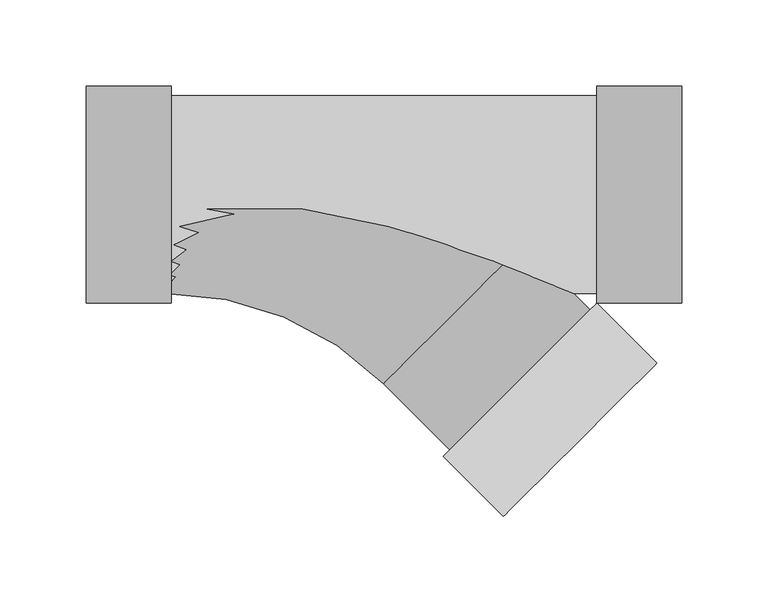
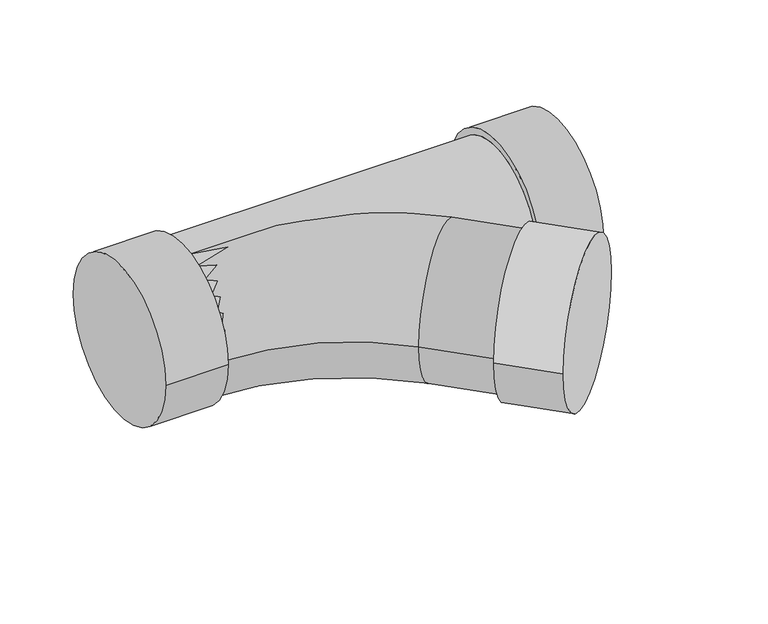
"""IFC4 building model written with IfcOpenShell, lengths in millimetres: pipe fitting geometry, M_Sanitario con te de reducción - PVC - Serie 40 - DWV : Estándar."""

import ifcopenshell
import ifcopenshell.guid

model = None  # the IFC model being written
_history = None  # IfcOwnerHistory: only IFC2X3 demands one
_inside = {}  # id of a spatial element -> (the spatial element, [elements in it])
_under = {}  # id of a project, library or spatial element -> (it, [spatial elements below it])
_declared = {}  # id of a project -> (the project, [libraries it declares])
_typed = {}  # id of a type object -> (the type object, [elements of that type])
_made_of = {}  # id of a material, layer set ... -> (it, [elements and type objects made of it])


def new_model(schema):
    """Start an empty IFC model of exactly this schema.

    Asked for "IFC4X3", IfcOpenShell would pick the latest addendum, in which some entities
    have other attributes; the version numbers below select the first issue.
    IFC2X3 requires an IfcOwnerHistory on every rooted entity: one is made here for all.
    """
    global model, _history
    if schema == "IFC4X3":
        model = ifcopenshell.file(schema_version=(4, 3, 0, 0))
    else:
        model = ifcopenshell.file(schema=schema)
    _inside.clear()
    _under.clear()
    _declared.clear()
    _typed.clear()
    _made_of.clear()
    _history = None
    if model.schema == "IFC2X3":
        org = make("IfcOrganization", Name="unknown")
        user = make(
            "IfcPersonAndOrganization",
            ThePerson=make("IfcPerson", FamilyName="unknown"),
            TheOrganization=org,
        )
        app = make(
            "IfcApplication",
            ApplicationDeveloper=org,
            Version="unknown",
            ApplicationFullName="unknown",
            ApplicationIdentifier="unknown",
        )
        _history = make(
            "IfcOwnerHistory",
            OwningUser=user,
            OwningApplication=app,
            ChangeAction="ADDED",
            CreationDate=0,
        )
    return model


def make(cls, **values):
    """One entity of the class cls with the attributes given. An attribute that is None is left unset."""
    return model.create_entity(
        cls, **{name: value for name, value in values.items() if value is not None}
    )


def rooted(cls, **values):
    """An entity with a GlobalId (a new one), such as an element, a storey or a relation."""
    return make(cls, GlobalId=ifcopenshell.guid.new(), OwnerHistory=_history, **values)


def si_unit(unit_type, name, prefix=None):
    """IfcSIUnit, for example si_unit("LENGTHUNIT", "METRE", prefix="MILLI")."""
    return make("IfcSIUnit", UnitType=unit_type, Prefix=prefix, Name=name)


def assignment(units):
    """IfcUnitAssignment: the units of a project."""
    return None if units is None else make("IfcUnitAssignment", Units=units)


def point(xyz):
    """IfcCartesianPoint."""
    return None if xyz is None else make("IfcCartesianPoint", Coordinates=xyz)


def direction(xyz):
    """IfcDirection."""
    return None if xyz is None else make("IfcDirection", DirectionRatios=xyz)


def frame(location, z_axis=None, x_axis=None):
    """IfcAxis2Placement3D, a coordinate frame: its origin and axes. An axis left out is left unset."""
    return make(
        "IfcAxis2Placement3D",
        Location=point(location),
        Axis=direction(z_axis),
        RefDirection=direction(x_axis),
    )


def origin():
    """The frame at (0, 0, 0) with its axes left unset."""
    return frame((0.0, 0.0, 0.0))


def place(relative_to, where):
    """IfcLocalPlacement: puts the frame where relative to a parent placement (None: the world)."""
    return make(
        "IfcLocalPlacement", PlacementRelTo=relative_to, RelativePlacement=where
    )


def context(
    kind, dimensions, precision=None, world=None, true_north=None, identifier=None
):
    """IfcGeometricRepresentationContext, for example the 3D "Model" context."""
    return make(
        "IfcGeometricRepresentationContext",
        ContextIdentifier=identifier,
        ContextType=kind,
        CoordinateSpaceDimension=dimensions,
        Precision=precision,
        WorldCoordinateSystem=world,
        TrueNorth=true_north,
    )


def project(units=None, contexts=None):
    """IfcProject with its units and contexts."""
    return rooted(
        "IfcProject",
        Name="project",
        RepresentationContexts=contexts,
        UnitsInContext=assignment(units),
    )


def spatial(cls, under=None, at=None, **own):
    """A site, building, storey or space (cls), placed at a placement, below another one or the project."""
    s = rooted(cls, ObjectPlacement=at, **own)
    if under is not None:
        _under.setdefault(under.id(), (under, []))[1].append(s)
    return s


def circle_curve(where, radius):
    """IfcCircle in the frame where."""
    return make("IfcCircle", Position=where, Radius=radius)


def ellipse_curve(where, semi_axis1, semi_axis2):
    """IfcEllipse in the frame where."""
    return make(
        "IfcEllipse", Position=where, SemiAxis1=semi_axis1, SemiAxis2=semi_axis2
    )


def trimmed(basis, trim1, trim2, sense, master):
    """IfcTrimmedCurve: the piece of a basis curve between two trims."""
    return make(
        "IfcTrimmedCurve",
        BasisCurve=basis,
        Trim1=trim1,
        Trim2=trim2,
        SenseAgreement=sense,
        MasterRepresentation=master,
    )


def shape(context_of_items, identifier, shape_type, items):
    """IfcShapeRepresentation: the items that make up one representation, for example the "Body"."""
    return make(
        "IfcShapeRepresentation",
        ContextOfItems=context_of_items,
        RepresentationIdentifier=identifier,
        RepresentationType=shape_type,
        Items=items,
    )


def source(mapping_origin, context_of_items, identifier, shape_type, items):
    """IfcRepresentationMap: a shape defined once, which mapped items show again and again."""
    return make(
        "IfcRepresentationMap",
        MappingOrigin=mapping_origin,
        MappedRepresentation=shape(context_of_items, identifier, shape_type, items),
    )


def transform(
    local_origin,
    x_axis=None,
    y_axis=None,
    z_axis=None,
    scale=None,
    scale2=None,
    scale3=None,
    uniform=True,
):
    """IfcCartesianTransformationOperator3D, or its non-uniform kind. x_axis, y_axis, z_axis: its Axis1, 2, 3."""
    if uniform:
        return make(
            "IfcCartesianTransformationOperator3D",
            Axis1=direction(x_axis),
            Axis2=direction(y_axis),
            LocalOrigin=point(local_origin),
            Scale=scale,
            Axis3=direction(z_axis),
        )
    return make(
        "IfcCartesianTransformationOperator3DnonUniform",
        Axis1=direction(x_axis),
        Axis2=direction(y_axis),
        LocalOrigin=point(local_origin),
        Scale=scale,
        Axis3=direction(z_axis),
        Scale2=scale2,
        Scale3=scale3,
    )


def mapped(mapping_source, mapping_target):
    """IfcMappedItem: shows the shape of a source again, moved by a transform."""
    return make(
        "IfcMappedItem", MappingSource=mapping_source, MappingTarget=mapping_target
    )


def made_of(thing, what):
    """Note that an element or type object is made of a material, layer set ...; save() writes the relation."""
    if what is not None:
        _made_of.setdefault(what.id(), (what, []))[1].append(thing)
    return thing


def element(
    cls,
    number,
    at=None,
    inside=None,
    cuts=None,
    type_object=None,
    material=None,
    context=None,
    identifier="Body",
    shape_type=None,
    held_by="IfcProductDefinitionShape",
    body=None,
    shapes=None,
    **own,
):
    """One element of the class cls, such as IfcWall. Its Tag is "e" and its number.

    at: its placement. inside: the storey or other place that contains it. cuts: it is an
    opening in that element (IfcRelVoidsElement). A single representation is given by context,
    identifier, shape_type and body (its items); several are given by shapes. held_by: the class
    of the entity that holds the representations. save() writes the other relations.
    """
    e = rooted(cls, Tag="e%d" % number, ObjectPlacement=at, **own)
    if body is not None:
        shapes = [shape(context, identifier, shape_type, body)]
    if shapes is not None:
        e.Representation = make(held_by, Representations=shapes)
    if inside is not None:
        _inside.setdefault(inside.id(), (inside, []))[1].append(e)
    if cuts is not None:
        rooted(
            "IfcRelVoidsElement", RelatingBuildingElement=cuts, RelatedOpeningElement=e
        )
    if type_object is not None:
        _typed.setdefault(type_object.id(), (type_object, []))[1].append(e)
    return made_of(e, material)


def aggregate(whole, parts):
    """IfcRelAggregates: a whole, such as a stair, and the parts it consists of."""
    return rooted("IfcRelAggregates", RelatingObject=whole, RelatedObjects=parts)


def save(model, path):
    """Write the relations noted so far, then the file.

    IfcRelAggregates (storeys below a building ...), IfcRelContainedInSpatialStructure (elements
    in a storey), IfcRelDefinesByType, IfcRelAssociatesMaterial and IfcRelDeclares: one each for
    every whole, place, type object, material and project.
    """
    for whole, parts in _under.values():
        aggregate(whole, parts)
    for where, things in _inside.values():
        rooted(
            "IfcRelContainedInSpatialStructure",
            RelatedElements=things,
            RelatingStructure=where,
        )
    for kind, things in _typed.values():
        rooted("IfcRelDefinesByType", RelatedObjects=things, RelatingType=kind)
    for what, things in _made_of.values():
        rooted("IfcRelAssociatesMaterial", RelatedObjects=things, RelatingMaterial=what)
    for by, libraries in _declared.values():
        rooted("IfcRelDeclares", RelatingContext=by, RelatedDefinitions=libraries)
    model.write(path)


def plane_surface(at):
    """IfcPlane: the flat surface through the origin of the frame at, square to its z axis."""
    return make("IfcPlane", Position=at)


def cylinder_surface(at, radius):
    """IfcCylindricalSurface: all points at the distance radius from the z axis of the frame at."""
    return make("IfcCylindricalSurface", Position=at, Radius=radius)


def revolved_surface(curve, axis_point, axis_direction):
    """IfcSurfaceOfRevolution: the curve turned about the line through axis_point along axis_direction."""
    return make(
        "IfcSurfaceOfRevolution",
        SweptCurve=make("IfcArbitraryOpenProfileDef", ProfileType="CURVE", Curve=curve),
        AxisPosition=make("IfcAxis1Placement", Location=point(axis_point), Axis=direction(axis_direction)),
    )


def advanced_brep(points, edges, surfaces, faces):
    """IfcAdvancedBrep: a solid bounded by faces that lie on surfaces and meet in shared edges.

    An edge is (start, end): straight between two places in points (the first is 0);
    or (start, end, curve); or (start, end, curve, False) where it runs against its curve.
    A face is (place in surfaces, loops), or (place, loops, False) where it looks against
    its surface's normal. A loop lists edges by number (the first is 1), with a minus sign
    where the edge is run from its end to its start. The first loop is the outer one.
    """
    corners = [point(p) for p in points]
    vertices = [make("IfcVertexPoint", VertexGeometry=c) for c in corners]
    made = []
    for start, end, *more in edges:
        made.append(
            make(
                "IfcEdgeCurve",
                EdgeStart=vertices[start],
                EdgeEnd=vertices[end],
                EdgeGeometry=more[0] if more else make("IfcPolyline", Points=[corners[start], corners[end]]),
                SameSense=more[1] if len(more) > 1 else True,
            )
        )
    hull = []
    for where, loops, *sense in faces:
        bounds = []
        for j, loop in enumerate(loops):
            ring = [make("IfcOrientedEdge", EdgeElement=made[abs(k) - 1], Orientation=k > 0) for k in loop]
            bounds.append(
                make(
                    "IfcFaceOuterBound" if j == 0 else "IfcFaceBound",
                    Bound=make("IfcEdgeLoop", EdgeList=ring),
                    Orientation=True,
                )
            )
        hull.append(make("IfcAdvancedFace", Bounds=bounds, FaceSurface=surfaces[where], SameSense=sense[0] if sense else True))
    return make("IfcAdvancedBrep", Outer=make("IfcClosedShell", CfsFaces=hull))


def pipe_fitting_528008cb(model_context):
    return source(origin(), model_context, "Body", "AdvancedBrep", [
        advanced_brep(
        [(151.7360007, -62.8511094, 0.0), (151.7360007, 62.8511094, 0.0), (151.7360007, -57.3960625, 0.0), (151.7360007, 57.3960625, 0.0), (200.9723132, -62.8511094, 0.0), (200.9723132, 62.8511094, 0.0), (-94.6584022, 57.3960625, 0.0), (-94.6584022, -57.3960625, 0.0), (-143.8947147, -62.8511094, 0.0), (-143.8947147, 62.8511094, 0.0), (-94.6584022, -62.8511094, 0.0), (-94.6584022, 62.8511094, 0.0)],
        [
            (0, 1, circle_curve(frame((151.7360007, 0.0, 0.0), z_axis=(-1.0, 0.0, 0.0), x_axis=(0.0, 1.0, 0.0)), 62.8511094)),
            (1, 0, circle_curve(frame((151.7360007, 0.0, 0.0), z_axis=(-1.0, 0.0, 0.0), x_axis=(0.0, 1.0, 0.0)), 62.8511094)),
            (2, 3, circle_curve(frame((151.7360007, 0.0, 0.0), z_axis=(1.0, 0.0, 0.0), x_axis=(0.0, 0.0, -1.0)), 57.3960625)),
            (3, 2, circle_curve(frame((151.7360007, 0.0, 0.0), z_axis=(1.0, 0.0, 0.0), x_axis=(0.0, 0.0, 1.0)), 57.3960625)),
            (4, 5, circle_curve(frame((200.9723132, 0.0, 0.0), z_axis=(1.0, 0.0, 0.0), x_axis=(0.0, 1.0, 0.0)), 62.8511094)),
            (5, 4, circle_curve(frame((200.9723132, 0.0, 0.0), z_axis=(1.0, 0.0, 0.0), x_axis=(0.0, 1.0, 0.0)), 62.8511094)),
            (0, 4),
            (5, 1),
            (6, 3),
            (2, 7),
            (7, 6, circle_curve(frame((-94.6584022, 0.0, 0.0), z_axis=(1.0, 0.0, 0.0), x_axis=(0.0, 0.0, -1.0)), 57.3960625)),
            (6, 7, circle_curve(frame((-94.6584022, 0.0, 0.0), z_axis=(1.0, 0.0, 0.0), x_axis=(0.0, 0.0, 1.0)), 57.3960625)),
            (8, 9, circle_curve(frame((-143.8947147, 0.0, 0.0), z_axis=(-1.0, 0.0, 0.0), x_axis=(0.0, 1.0, 0.0)), 62.8511094)),
            (9, 8, circle_curve(frame((-143.8947147, 0.0, 0.0), z_axis=(-1.0, 0.0, 0.0), x_axis=(0.0, 1.0, 0.0)), 62.8511094)),
            (10, 11, circle_curve(frame((-94.6584022, 0.0, 0.0), z_axis=(1.0, 0.0, 0.0), x_axis=(0.0, 1.0, 0.0)), 62.8511094)),
            (11, 10, circle_curve(frame((-94.6584022, 0.0, 0.0), z_axis=(1.0, 0.0, 0.0), x_axis=(0.0, 1.0, 0.0)), 62.8511094)),
            (8, 10),
            (11, 9),
        ],
        [
            plane_surface(frame((151.7360007, 0.0, 0.0), z_axis=(-1.0, 0.0, 0.0), x_axis=(0.0, 0.0, 1.0))),
            plane_surface(frame((200.9723132, 0.0, 0.0), z_axis=(1.0, 0.0, 0.0), x_axis=(0.0, 0.0, 1.0))),
            cylinder_surface(frame((151.7360007, 0.0, 0.0), z_axis=(-1.0, 0.0, 0.0), x_axis=(0.0, 1.0, 0.0)), 62.8511094),
            cylinder_surface(frame((-94.6584022, 0.0, 0.0), z_axis=(1.0, 0.0, 0.0), x_axis=(0.0, 0.0, -1.0)), 57.3960625),
            cylinder_surface(frame((-94.6584022, 0.0, 0.0), z_axis=(1.0, 0.0, 0.0), x_axis=(0.0, 0.0, 1.0)), 57.3960625),
            plane_surface(frame((-143.8947147, 0.0, 0.0), z_axis=(-1.0, 0.0, 0.0), x_axis=(0.0, 0.0, 1.0))),
            plane_surface(frame((-94.6584022, 0.0, 0.0), z_axis=(1.0, 0.0, 0.0), x_axis=(0.0, 0.0, 1.0))),
            cylinder_surface(frame((-143.8947147, 0.0, 0.0), z_axis=(-1.0, 0.0, 0.0), x_axis=(0.0, 1.0, 0.0)), 62.8511094),
        ],
        [
            (0, [[1, 2], [3, 4]]),
            (1, [[5, 6]]),
            (2, [[-1, 7, -6, 8]]),
            (2, [[-2, -8, -5, -7]]),
            (3, [[9, -3, 10, 11]]),
            (4, [[-9, 12, -10, -4]]),
            (5, [[13, 14]]),
            (6, [[15, 16], [-11, -12]]),
            (7, [[-13, 17, -16, 18]]),
            (7, [[-14, -18, -15, -17]]),
        ],
    ),
        advanced_brep(
        [(186.5513311, -97.6664398, 0.0), (97.6664398, -186.5513311, 0.0), (68.9992366, -68.9992366, 57.3960625), (28.4140916, -109.5843816, 0.0), (66.70841, -147.8787, 0.0), (147.8787, -66.70841, 0.0), (109.5843816, -28.4140916, 0.0), (68.9992366, -68.9992366, -57.3960625), (-97.5796562, -57.3960625, 0.0), (-97.5796562, 57.3960625, 0.0), (151.7360007, -62.8511094, 0.0), (62.8511094, -151.7360007, 0.0)],
        [
            (0, 1, circle_curve(frame((142.1088855, -142.1088855, 0.0), z_axis=(0.7071067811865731, -0.7071067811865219, 0.0), x_axis=(-0.7071067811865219, -0.7071067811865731, 0.0)), 62.8511094)),
            (1, 0, circle_curve(frame((142.1088855, -142.1088855, 0.0), z_axis=(0.7071067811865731, -0.7071067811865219, 0.0), x_axis=(-0.7071067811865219, -0.7071067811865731, 0.0)), 62.8511094)),
            (2, 3, circle_curve(frame((68.9992366, -68.9992366, 0.0), z_axis=(0.7071067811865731, -0.707106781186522, 0.0), x_axis=(0.707106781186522, 0.7071067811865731, 0.0)), 57.3960625)),
            (3, 4),
            (4, 5, circle_curve(frame((107.293555, -107.293555, 0.0), z_axis=(-0.7071067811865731, 0.707106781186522, 0.0), x_axis=(0.707106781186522, 0.7071067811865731, 0.0)), 57.3960625)),
            (5, 6),
            (6, 2, circle_curve(frame((68.9992366, -68.9992366, 0.0), z_axis=(0.7071067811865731, -0.707106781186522, 0.0), x_axis=(0.707106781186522, 0.7071067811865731, 0.0)), 57.3960625)),
            (3, 7, circle_curve(frame((68.9992366, -68.9992366, 0.0), z_axis=(0.7071067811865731, -0.707106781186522, 0.0), x_axis=(0.707106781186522, 0.7071067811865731, 0.0)), 57.3960625)),
            (7, 6, circle_curve(frame((68.9992366, -68.9992366, 0.0), z_axis=(0.7071067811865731, -0.707106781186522, 0.0), x_axis=(0.707106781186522, 0.7071067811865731, 0.0)), 57.3960625)),
            (5, 4, circle_curve(frame((107.293555, -107.293555, 0.0), z_axis=(-0.7071067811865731, 0.707106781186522, 0.0), x_axis=(0.707106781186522, 0.7071067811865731, 0.0)), 57.3960625)),
            (8, 9, circle_curve(frame((-97.5796562, 0.0, 0.0), z_axis=(-1.0, 0.0, 0.0), x_axis=(0.0, 1.0, 0.0)), 57.3960625)),
            (9, 8, circle_curve(frame((-97.5796562, 0.0, 0.0), z_axis=(-1.0, 0.0, 0.0), x_axis=(0.0, 1.0, 0.0)), 57.3960625)),
            (8, 3, circle_curve(frame((-97.5796562, -235.5781295, 0.0), z_axis=(0.0, 0.0, -1.0), x_axis=(0.0, 1.0, 0.0)), 178.182067)),
            (6, 9, circle_curve(frame((-97.5796562, -235.5781295, 0.0), z_axis=(0.0, 0.0, 1.0), x_axis=(0.0, 1.0, 0.0)), 292.974192)),
            (10, 11, circle_curve(frame((107.293555, -107.293555, 0.0), z_axis=(-0.7071067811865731, 0.7071067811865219, 0.0), x_axis=(-0.7071067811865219, -0.7071067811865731, 0.0)), 62.8511094)),
            (11, 10, circle_curve(frame((107.293555, -107.293555, 0.0), z_axis=(-0.7071067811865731, 0.7071067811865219, 0.0), x_axis=(-0.7071067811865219, -0.7071067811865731, 0.0)), 62.8511094)),
            (0, 10),
            (11, 1),
        ],
        [
            plane_surface(frame((142.1088855, -142.1088855, 0.0), z_axis=(0.7071067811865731, -0.707106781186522, 0.0), x_axis=(0.0, 0.0, 1.0))),
            cylinder_surface(frame((68.9992366, -68.9992366, 0.0), z_axis=(-0.7071067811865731, 0.707106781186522, 0.0), x_axis=(0.707106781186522, 0.7071067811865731, 0.0)), 57.3960625),
            plane_surface(frame((-97.5796562, 0.0, 0.0), z_axis=(-1.0, 0.0, 0.0), x_axis=(0.0, 0.0, 1.0))),
            revolved_surface(trimmed(ellipse_curve(frame((-97.5796562, 0.0, 0.0), z_axis=(-1.0, 0.0, 0.0), x_axis=(0.0, 1.0, 0.0)), 57.3960625, 57.3960625), [point((-97.5796562, -57.3960625, 0.0))], [point((-97.5796562, 57.3960625, 0.0))], True, "CARTESIAN"), (-97.5796562, -235.5781295, 0.0), (0.0, 0.0, -1.0)),
            revolved_surface(trimmed(ellipse_curve(frame((-97.5796562, 0.0, 0.0), z_axis=(-1.0, 0.0, 0.0), x_axis=(0.0, 1.0, 0.0)), 57.3960625, 57.3960625), [point((-97.5796562, 57.3960625, 0.0))], [point((-97.5796562, -57.3960625, 0.0))], True, "CARTESIAN"), (-97.5796562, -235.5781295, 0.0), (0.0, 0.0, -1.0)),
            plane_surface(frame((107.293555, -107.293555, 0.0), z_axis=(-0.7071067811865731, 0.7071067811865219, 0.0), x_axis=(0.0, 0.0, 1.0))),
            cylinder_surface(frame((142.1088855, -142.1088855, 0.0), z_axis=(0.7071067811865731, -0.7071067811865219, 0.0), x_axis=(-0.7071067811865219, -0.7071067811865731, 0.0)), 62.8511094),
        ],
        [
            (0, [[1, 2]]),
            (1, [[3, 4, 5, 6, 7]]),
            (1, [[8, 9, -6, 10, -4]]),
            (2, [[11, 12]]),
            (3, [[-11, 13, -3, -7, 14]]),
            (4, [[-12, -14, -9, -8, -13]]),
            (5, [[15, 16], [-5, -10]]),
            (6, [[-1, 17, -16, 18]]),
            (6, [[-2, -18, -15, -17]]),
        ],
    ),
    ])


if __name__ == "__main__":
    model = new_model("IFC4")
    model_context = context("Model", 3, world=origin())
    ifc_project = project(units=[si_unit("LENGTHUNIT", "METRE", prefix="MILLI")], contexts=[model_context])
    site = spatial("IfcSite", under=ifc_project)
    building = spatial("IfcBuilding", under=site)
    placement = place(None, origin())
    pipe_fitting_shape = pipe_fitting_528008cb(model_context)
    element("IfcPipeFitting", 1, ObjectType="M_Sanitario con te de reducción - PVC - Serie 40 - DWV : Estándar", at=placement, inside=building, context=model_context, shape_type="MappedRepresentation", body=[
        mapped(pipe_fitting_shape, transform((0.0, 0.0, 0.0), x_axis=(1.0, 0.0, 0.0), y_axis=(0.0, 1.0, 0.0), z_axis=(0.0, 0.0, 1.0))),
    ])
    save(model, "model.ifc")
